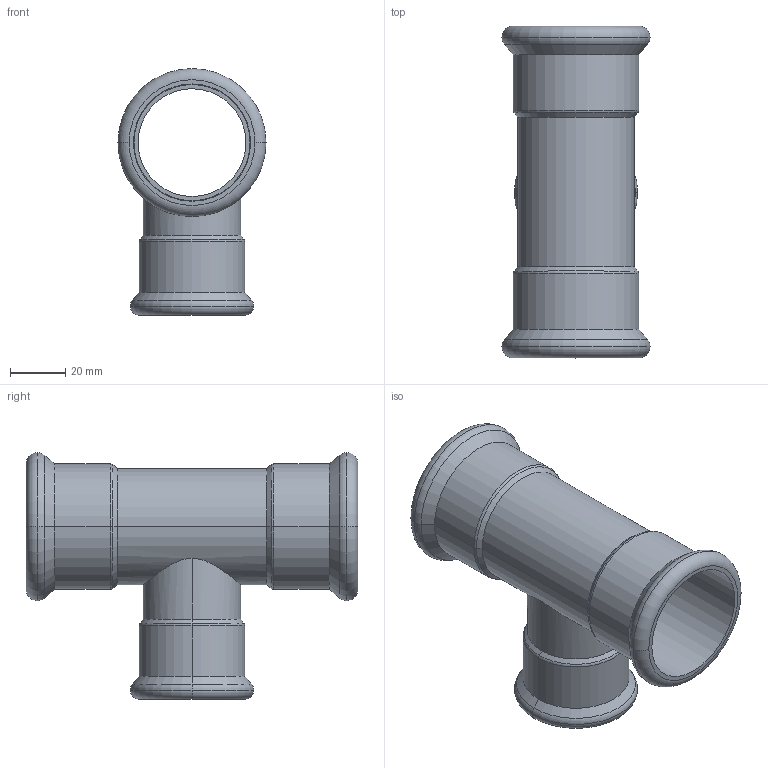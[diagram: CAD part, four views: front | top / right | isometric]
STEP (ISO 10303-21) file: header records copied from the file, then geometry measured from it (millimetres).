
FILE_DESCRIPTION(('CoCreate Modeling STEP Export'),'2;1');
FILE_NAME('C1415 42x35x42.stp','2014-11-12T10:33:58',(''),(''),'CoCreate Modeling STEP processor for AP214 (Solid Model)','CoCreate Modeling 17.00A 17-Jun-2010 (C) Parametric Technology GmbH','');
FILE_SCHEMA(('AUTOMOTIVE_DESIGN { 1 0 10303 214 1 1 1 1 }'));
Length unit declared in the file: millimetre
Products named in the file (2): C1415_42x35x42
Assembly tree (1 placements, depth 2):
  C1415_42x35x42
    C1415_42x35x42
Bounding box: 53.55 x 120 x 89.28 mm (x, y, z)
Volume: 43875.9 mm3; surface area: 45532.2 mm2
Topology: 1 solids, 1 shells, 66 faces, 134 edges, 78 vertices
Faces by surface type: cylinder 27, torus 18, cone 12, plane 9
Entity records: 2764 total; most frequent: CARTESIAN_POINT 1537, ORIENTED_EDGE 268, DIRECTION 220, EDGE_CURVE 134, AXIS2_PLACEMENT_3D 91, VERTEX_POINT 78, EDGE_LOOP 76, FACE_OUTER_BOUND 66
